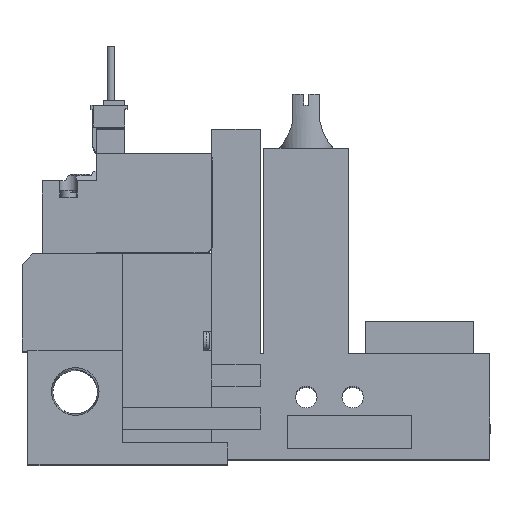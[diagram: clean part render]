
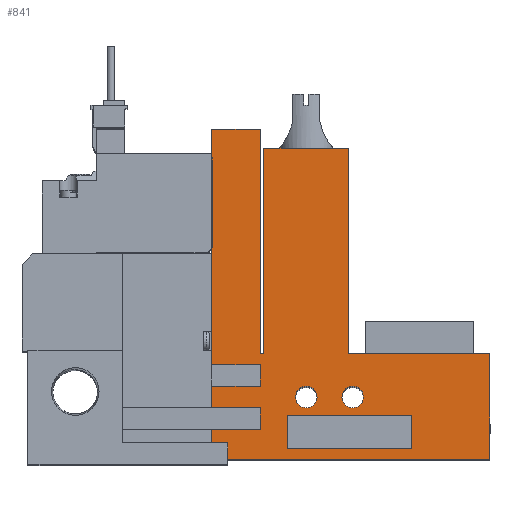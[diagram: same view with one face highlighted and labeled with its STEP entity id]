
A CAD part, top view. The second image highlights one B-rep face of the part: STEP entity #841.
In plain terms, the highlighted planar face has unit normal (0, 0, 1).
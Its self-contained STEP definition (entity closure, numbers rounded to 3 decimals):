
#841=ADVANCED_FACE('',(#1632,#1633,#1634,#1635),#1636,.T.);
#1632=FACE_OUTER_BOUND('',#2694,.T.);
#1633=FACE_BOUND('',#2695,.T.);
#1634=FACE_BOUND('',#2696,.T.);
#1635=FACE_BOUND('',#2697,.T.);
#1636=PLANE('',#2698);
#2694=EDGE_LOOP('',(#5570,#5571,#5572,#5573,#5574,#5575,#5576,#5577,#5578,#5579,#5580,#5581,#5582,#5583,#5584,#5585,#5586,#5587));
#2695=EDGE_LOOP('',(#5588,#5589,#5590,#5591));
#2696=EDGE_LOOP('',(#5592));
#2697=EDGE_LOOP('',(#5593));
#2698=AXIS2_PLACEMENT_3D('',#5594,#5595,#5596);
#5570=ORIENTED_EDGE('',*,*,#7388,.T.);
#5571=ORIENTED_EDGE('',*,*,#7379,.T.);
#5572=ORIENTED_EDGE('',*,*,#7370,.T.);
#5573=ORIENTED_EDGE('',*,*,#7287,.T.);
#5574=ORIENTED_EDGE('',*,*,#7199,.T.);
#5575=ORIENTED_EDGE('',*,*,#7397,.T.);
#5576=ORIENTED_EDGE('',*,*,#7382,.T.);
#5577=ORIENTED_EDGE('',*,*,#7372,.T.);
#5578=ORIENTED_EDGE('',*,*,#7262,.T.);
#5579=ORIENTED_EDGE('',*,*,#7349,.T.);
#5580=ORIENTED_EDGE('',*,*,#7239,.T.);
#5581=ORIENTED_EDGE('',*,*,#7254,.T.);
#5582=ORIENTED_EDGE('',*,*,#7358,.T.);
#5583=ORIENTED_EDGE('',*,*,#7315,.T.);
#5584=ORIENTED_EDGE('',*,*,#7323,.T.);
#5585=ORIENTED_EDGE('',*,*,#7283,.T.);
#5586=ORIENTED_EDGE('',*,*,#7322,.T.);
#5587=ORIENTED_EDGE('',*,*,#7400,.T.);
#5588=ORIENTED_EDGE('',*,*,#7258,.T.);
#5589=ORIENTED_EDGE('',*,*,#7401,.T.);
#5590=ORIENTED_EDGE('',*,*,#7335,.T.);
#5591=ORIENTED_EDGE('',*,*,#7376,.T.);
#5592=ORIENTED_EDGE('',*,*,#7339,.T.);
#5593=ORIENTED_EDGE('',*,*,#7355,.T.);
#5594=CARTESIAN_POINT('',(0.0,0.0,10.0));
#5595=DIRECTION('',(0.0,0.0,1.0));
#5596=DIRECTION('',(1.0,0.0,0.0));
#7199=EDGE_CURVE('',#8680,#8678,#8681,.T.);
#7239=EDGE_CURVE('',#8758,#8756,#8759,.T.);
#7254=EDGE_CURVE('',#8756,#8783,#8785,.T.);
#7258=EDGE_CURVE('',#8786,#8791,#8793,.T.);
#7262=EDGE_CURVE('',#8795,#8799,#8801,.T.);
#7283=EDGE_CURVE('',#8836,#8834,#8837,.T.);
#7287=EDGE_CURVE('',#8839,#8680,#8842,.T.);
#7315=EDGE_CURVE('',#8890,#8888,#8891,.T.);
#7322=EDGE_CURVE('',#8834,#8899,#8901,.T.);
#7323=EDGE_CURVE('',#8888,#8836,#8902,.T.);
#7335=EDGE_CURVE('',#8915,#8920,#8922,.T.);
#7339=EDGE_CURVE('',#8928,#8928,#8929,.T.);
#7349=EDGE_CURVE('',#8799,#8758,#8947,.T.);
#7355=EDGE_CURVE('',#8956,#8956,#8957,.T.);
#7358=EDGE_CURVE('',#8783,#8890,#8961,.T.);
#7370=EDGE_CURVE('',#8975,#8839,#8977,.T.);
#7372=EDGE_CURVE('',#8979,#8795,#8980,.T.);
#7376=EDGE_CURVE('',#8920,#8786,#8985,.T.);
#7379=EDGE_CURVE('',#8986,#8975,#8989,.T.);
#7382=EDGE_CURVE('',#8991,#8979,#8993,.T.);
#7388=EDGE_CURVE('',#8999,#8986,#9000,.T.);
#7397=EDGE_CURVE('',#8678,#8991,#9011,.T.);
#7400=EDGE_CURVE('',#8899,#8999,#9014,.T.);
#7401=EDGE_CURVE('',#8791,#8915,#9015,.T.);
#8678=VERTEX_POINT('',#11083);
#8680=VERTEX_POINT('',#11086);
#8681=LINE('',#11087,#11088);
#8756=VERTEX_POINT('',#11196);
#8758=VERTEX_POINT('',#11199);
#8759=LINE('',#11200,#11201);
#8783=VERTEX_POINT('',#11237);
#8785=LINE('',#11240,#11241);
#8786=VERTEX_POINT('',#11242);
#8791=VERTEX_POINT('',#11249);
#8793=LINE('',#11252,#11253);
#8795=VERTEX_POINT('',#11255);
#8799=VERTEX_POINT('',#11261);
#8801=LINE('',#11264,#11265);
#8834=VERTEX_POINT('',#11332);
#8836=VERTEX_POINT('',#11335);
#8837=LINE('',#11336,#11337);
#8839=VERTEX_POINT('',#11340);
#8842=LINE('',#11345,#11346);
#8888=VERTEX_POINT('',#11415);
#8890=VERTEX_POINT('',#11418);
#8891=LINE('',#11419,#11420);
#8899=VERTEX_POINT('',#11433);
#8901=LINE('',#11436,#11437);
#8902=LINE('',#11438,#11439);
#8915=VERTEX_POINT('',#11460);
#8920=VERTEX_POINT('',#11467);
#8922=LINE('',#11470,#11471);
#8928=VERTEX_POINT('',#11480);
#8929=CIRCLE('',#11481,2.0);
#8947=LINE('',#11508,#11509);
#8956=VERTEX_POINT('',#11521);
#8957=CIRCLE('',#11522,2.0);
#8961=LINE('',#11528,#11529);
#8975=VERTEX_POINT('',#11553);
#8977=LINE('',#11556,#11557);
#8979=VERTEX_POINT('',#11560);
#8980=LINE('',#11561,#11562);
#8985=LINE('',#11569,#11570);
#8986=VERTEX_POINT('',#11571);
#8989=LINE('',#11576,#11577);
#8991=VERTEX_POINT('',#11580);
#8993=LINE('',#11583,#11584);
#8999=VERTEX_POINT('',#11595);
#9000=LINE('',#11596,#11597);
#9011=LINE('',#11612,#11613);
#9014=LINE('',#11618,#11619);
#9015=LINE('',#11620,#11621);
#11083=CARTESIAN_POINT('',(35.1,9.5,10.0));
#11086=CARTESIAN_POINT('',(35.1,13.5,10.0));
#11087=CARTESIAN_POINT('',(35.1,0.0,10.0));
#11088=VECTOR('',#13234,1.0);
#11196=CARTESIAN_POINT('',(86.6,19.5,10.0));
#11199=CARTESIAN_POINT('',(86.6,0.0,10.0));
#11200=CARTESIAN_POINT('',(86.6,0.0,10.0));
#11201=VECTOR('',#13284,1.0);
#11237=CARTESIAN_POINT('',(60.45,19.5,10.0));
#11240=CARTESIAN_POINT('',(86.6,19.5,10.0));
#11241=VECTOR('',#13301,1.0);
#11242=CARTESIAN_POINT('',(49.1,2.0,10.0));
#11249=CARTESIAN_POINT('',(49.1,8.0,10.0));
#11252=CARTESIAN_POINT('',(49.1,0.0,10.0));
#11253=VECTOR('',#13305,1.0);
#11255=CARTESIAN_POINT('',(35.1,5.5,10.0));
#11261=CARTESIAN_POINT('',(35.1,0.0,10.0));
#11264=CARTESIAN_POINT('',(35.1,0.0,10.0));
#11265=VECTOR('',#13309,1.0);
#11332=CARTESIAN_POINT('',(44.1,19.5,10.0));
#11335=CARTESIAN_POINT('',(44.75,19.5,10.0));
#11336=CARTESIAN_POINT('',(44.75,19.5,10.0));
#11337=VECTOR('',#13340,1.0);
#11340=CARTESIAN_POINT('',(44.1,13.5,10.0));
#11345=CARTESIAN_POINT('',(0.0,13.5,10.0));
#11346=VECTOR('',#13344,1.0);
#11415=CARTESIAN_POINT('',(44.75,57.5,10.0));
#11418=CARTESIAN_POINT('',(60.45,57.5,10.0));
#11419=CARTESIAN_POINT('',(60.45,57.5,10.0));
#11420=VECTOR('',#13378,1.0);
#11433=CARTESIAN_POINT('',(44.1,61.0,10.0));
#11436=CARTESIAN_POINT('',(44.1,19.5,10.0));
#11437=VECTOR('',#13385,1.0);
#11438=CARTESIAN_POINT('',(44.75,57.5,10.0));
#11439=VECTOR('',#13386,1.0);
#11460=CARTESIAN_POINT('',(72.1,8.0,10.0));
#11467=CARTESIAN_POINT('',(72.1,2.0,10.0));
#11470=CARTESIAN_POINT('',(72.1,0.0,10.0));
#11471=VECTOR('',#13398,1.0);
#11480=CARTESIAN_POINT('',(54.6,11.5,10.0));
#11481=AXIS2_PLACEMENT_3D('',#13402,#13403,#13404);
#11508=CARTESIAN_POINT('',(18.6,0.0,10.0));
#11509=VECTOR('',#13414,1.0);
#11521=CARTESIAN_POINT('',(63.2,11.5,10.0));
#11522=AXIS2_PLACEMENT_3D('',#13424,#13425,#13426);
#11528=CARTESIAN_POINT('',(60.45,19.5,10.0));
#11529=VECTOR('',#13429,1.0);
#11553=CARTESIAN_POINT('',(44.1,17.5,10.0));
#11556=CARTESIAN_POINT('',(44.1,0.0,10.0));
#11557=VECTOR('',#13441,1.0);
#11560=CARTESIAN_POINT('',(44.1,5.5,10.0));
#11561=CARTESIAN_POINT('',(0.0,5.5,10.0));
#11562=VECTOR('',#13443,1.0);
#11569=CARTESIAN_POINT('',(0.0,2.0,10.0));
#11570=VECTOR('',#13449,1.0);
#11571=CARTESIAN_POINT('',(35.1,17.5,10.0));
#11576=CARTESIAN_POINT('',(0.0,17.5,10.0));
#11577=VECTOR('',#13452,1.0);
#11580=CARTESIAN_POINT('',(44.1,9.5,10.0));
#11583=CARTESIAN_POINT('',(44.1,0.0,10.0));
#11584=VECTOR('',#13455,1.0);
#11595=CARTESIAN_POINT('',(35.1,61.0,10.0));
#11596=CARTESIAN_POINT('',(35.1,61.0,10.0));
#11597=VECTOR('',#13461,1.0);
#11612=CARTESIAN_POINT('',(0.0,9.5,10.0));
#11613=VECTOR('',#13478,1.0);
#11618=CARTESIAN_POINT('',(44.1,61.0,10.0));
#11619=VECTOR('',#13481,1.0);
#11620=CARTESIAN_POINT('',(0.0,8.0,10.0));
#11621=VECTOR('',#13482,1.0);
#13234=DIRECTION('',(0.0,-1.0,0.0));
#13284=DIRECTION('',(0.0,1.0,0.0));
#13301=DIRECTION('',(-1.0,0.0,0.0));
#13305=DIRECTION('',(0.0,1.0,0.0));
#13309=DIRECTION('',(0.0,-1.0,0.0));
#13340=DIRECTION('',(-1.0,0.0,0.0));
#13344=DIRECTION('',(-1.0,0.0,0.0));
#13378=DIRECTION('',(-1.0,0.0,0.0));
#13385=DIRECTION('',(0.0,1.0,0.0));
#13386=DIRECTION('',(0.0,-1.0,0.0));
#13398=DIRECTION('',(0.0,-1.0,0.0));
#13402=CARTESIAN_POINT('',(52.6,11.5,10.0));
#13403=DIRECTION('',(0.0,0.0,-1.0));
#13404=DIRECTION('',(1.0,0.0,0.0));
#13414=DIRECTION('',(1.0,0.0,0.0));
#13424=CARTESIAN_POINT('',(61.2,11.5,10.0));
#13425=DIRECTION('',(0.0,0.0,-1.0));
#13426=DIRECTION('',(1.0,0.0,0.0));
#13429=DIRECTION('',(0.0,1.0,0.0));
#13441=DIRECTION('',(0.0,-1.0,0.0));
#13443=DIRECTION('',(-1.0,0.0,0.0));
#13449=DIRECTION('',(-1.0,0.0,0.0));
#13452=DIRECTION('',(1.0,0.0,0.0));
#13455=DIRECTION('',(0.0,-1.0,0.0));
#13461=DIRECTION('',(0.0,-1.0,0.0));
#13478=DIRECTION('',(1.0,0.0,0.0));
#13481=DIRECTION('',(-1.0,0.0,0.0));
#13482=DIRECTION('',(1.0,0.0,0.0));
